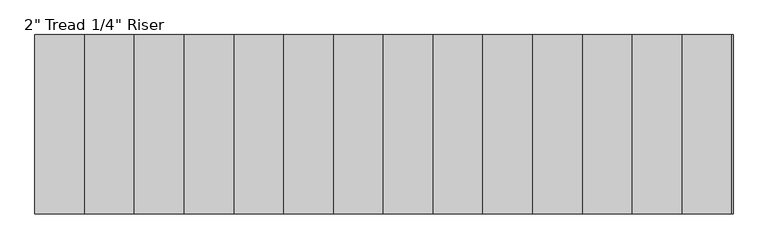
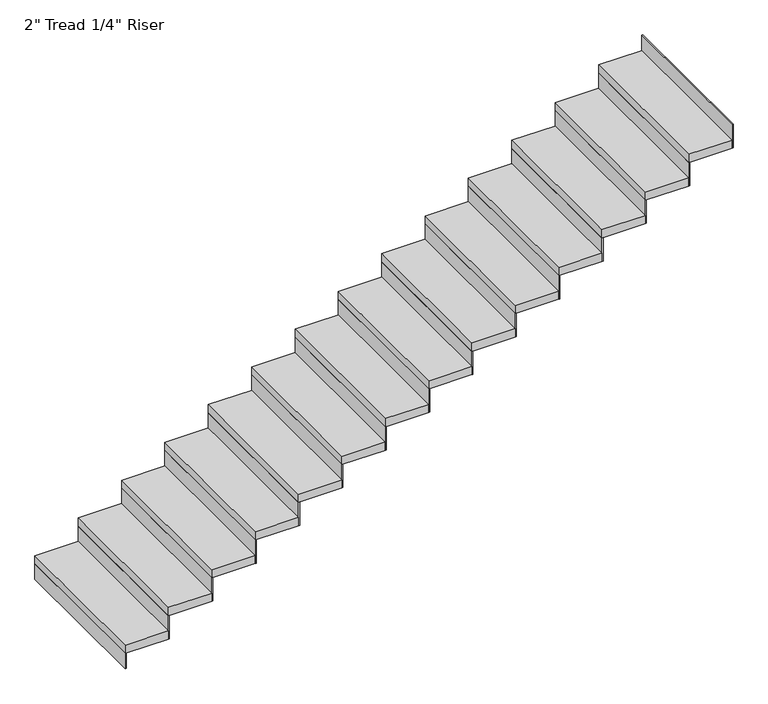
"""IFC4 building model written with IfcOpenShell, lengths in millimetres: stair flight geometry."""

from ifc_helpers import new_model, si_unit, frame, origin, origin_with_axes, place, context, project, spatial, polyline, outline, extrude, source, transform, mapped, element, save


def stair_flight_b1352991(model_context):
    return source(origin(), model_context, "Body", "SweptSolid", [
        extrude(outline(polyline([(134755.6382982, 15846.0395941), (134749.2882982, 15846.0395941), (134749.2882982, 16760.4395941), (134755.6382982, 16760.4395941), (134755.6382982, 15846.0395941)])), origin_with_axes(), (0.0, 0.0, 1.0), 94.3428571),
        extrude(outline(polyline([(135003.2882982, 16760.4395941), (135003.2882982, 15846.0395941), (134749.2882982, 15846.0395941), (134749.2882982, 16760.4395941), (135003.2882982, 16760.4395941)])), frame((0.0, 0.0, 94.3428571), z_axis=(0.0, 0.0, 1.0), x_axis=(1.0, 0.0, 0.0)), (0.0, 0.0, 1.0), 50.8),
        extrude(outline(polyline([(135009.6382982, 15846.0395941), (135003.2882982, 15846.0395941), (135003.2882982, 16760.4395941), (135009.6382982, 16760.4395941), (135009.6382982, 15846.0395941)])), frame((0.0, 0.0, 94.3428571), z_axis=(0.0, 0.0, 1.0), x_axis=(1.0, 0.0, 0.0)), (0.0, 0.0, 1.0), 145.1428571),
        extrude(outline(polyline([(135257.2882982, 16760.4395941), (135257.2882982, 15846.0395941), (135003.2882982, 15846.0395941), (135003.2882982, 16760.4395941), (135257.2882982, 16760.4395941)])), frame((0.0, 0.0, 239.4857143), z_axis=(0.0, 0.0, 1.0), x_axis=(1.0, 0.0, 0.0)), (0.0, 0.0, 1.0), 50.8),
        extrude(outline(polyline([(135263.6382982, 15846.0395941), (135257.2882982, 15846.0395941), (135257.2882982, 16760.4395941), (135263.6382982, 16760.4395941), (135263.6382982, 15846.0395941)])), frame((0.0, 0.0, 239.4857143), z_axis=(0.0, 0.0, 1.0), x_axis=(1.0, 0.0, 0.0)), (0.0, 0.0, 1.0), 145.1428571),
        extrude(outline(polyline([(135511.2882982, 16760.4395941), (135511.2882982, 15846.0395941), (135257.2882982, 15846.0395941), (135257.2882982, 16760.4395941), (135511.2882982, 16760.4395941)])), frame((0.0, 0.0, 384.6285714), z_axis=(0.0, 0.0, 1.0), x_axis=(1.0, 0.0, 0.0)), (0.0, 0.0, 1.0), 50.8),
        extrude(outline(polyline([(135517.6382982, 15846.0395941), (135511.2882982, 15846.0395941), (135511.2882982, 16760.4395941), (135517.6382982, 16760.4395941), (135517.6382982, 15846.0395941)])), frame((0.0, 0.0, 384.6285714), z_axis=(0.0, 0.0, 1.0), x_axis=(1.0, 0.0, 0.0)), (0.0, 0.0, 1.0), 145.1428571),
        extrude(outline(polyline([(135765.2882982, 16760.4395941), (135765.2882982, 15846.0395941), (135511.2882982, 15846.0395941), (135511.2882982, 16760.4395941), (135765.2882982, 16760.4395941)])), frame((0.0, 0.0, 529.7714286), z_axis=(0.0, 0.0, 1.0), x_axis=(1.0, 0.0, 0.0)), (0.0, 0.0, 1.0), 50.8),
        extrude(outline(polyline([(135771.6382982, 15846.0395941), (135765.2882982, 15846.0395941), (135765.2882982, 16760.4395941), (135771.6382982, 16760.4395941), (135771.6382982, 15846.0395941)])), frame((0.0, 0.0, 529.7714286), z_axis=(0.0, 0.0, 1.0), x_axis=(1.0, 0.0, 0.0)), (0.0, 0.0, 1.0), 145.1428571),
        extrude(outline(polyline([(136019.2882982, 16760.4395941), (136019.2882982, 15846.0395941), (135765.2882982, 15846.0395941), (135765.2882982, 16760.4395941), (136019.2882982, 16760.4395941)])), frame((0.0, 0.0, 674.9142857), z_axis=(0.0, 0.0, 1.0), x_axis=(1.0, 0.0, 0.0)), (0.0, 0.0, 1.0), 50.8),
        extrude(outline(polyline([(136025.6382982, 15846.0395941), (136019.2882982, 15846.0395941), (136019.2882982, 16760.4395941), (136025.6382982, 16760.4395941), (136025.6382982, 15846.0395941)])), frame((0.0, 0.0, 674.9142857), z_axis=(0.0, 0.0, 1.0), x_axis=(1.0, 0.0, 0.0)), (0.0, 0.0, 1.0), 145.1428571),
        extrude(outline(polyline([(136273.2882982, 16760.4395941), (136273.2882982, 15846.0395941), (136019.2882982, 15846.0395941), (136019.2882982, 16760.4395941), (136273.2882982, 16760.4395941)])), frame((0.0, 0.0, 820.0571429), z_axis=(0.0, 0.0, 1.0), x_axis=(1.0, 0.0, 0.0)), (0.0, 0.0, 1.0), 50.8),
        extrude(outline(polyline([(136279.6382982, 15846.0395941), (136273.2882982, 15846.0395941), (136273.2882982, 16760.4395941), (136279.6382982, 16760.4395941), (136279.6382982, 15846.0395941)])), frame((0.0, 0.0, 820.0571429), z_axis=(0.0, 0.0, 1.0), x_axis=(1.0, 0.0, 0.0)), (0.0, 0.0, 1.0), 145.1428571),
        extrude(outline(polyline([(136527.2882982, 16760.4395941), (136527.2882982, 15846.0395941), (136273.2882982, 15846.0395941), (136273.2882982, 16760.4395941), (136527.2882982, 16760.4395941)])), frame((0.0, 0.0, 965.2), z_axis=(0.0, 0.0, 1.0), x_axis=(1.0, 0.0, 0.0)), (0.0, 0.0, 1.0), 50.8),
        extrude(outline(polyline([(136533.6382982, 15846.0395941), (136527.2882982, 15846.0395941), (136527.2882982, 16760.4395941), (136533.6382982, 16760.4395941), (136533.6382982, 15846.0395941)])), frame((0.0, 0.0, 965.2), z_axis=(0.0, 0.0, 1.0), x_axis=(1.0, 0.0, 0.0)), (0.0, 0.0, 1.0), 145.1428571),
        extrude(outline(polyline([(136781.2882982, 16760.4395941), (136781.2882982, 15846.0395941), (136527.2882982, 15846.0395941), (136527.2882982, 16760.4395941), (136781.2882982, 16760.4395941)])), frame((0.0, 0.0, 1110.3428571), z_axis=(0.0, 0.0, 1.0), x_axis=(1.0, 0.0, 0.0)), (0.0, 0.0, 1.0), 50.8),
        extrude(outline(polyline([(136787.6382982, 15846.0395941), (136781.2882982, 15846.0395941), (136781.2882982, 16760.4395941), (136787.6382982, 16760.4395941), (136787.6382982, 15846.0395941)])), frame((0.0, 0.0, 1110.3428571), z_axis=(0.0, 0.0, 1.0), x_axis=(1.0, 0.0, 0.0)), (0.0, 0.0, 1.0), 145.1428571),
        extrude(outline(polyline([(137035.2882982, 16760.4395941), (137035.2882982, 15846.0395941), (136781.2882982, 15846.0395941), (136781.2882982, 16760.4395941), (137035.2882982, 16760.4395941)])), frame((0.0, 0.0, 1255.4857143), z_axis=(0.0, 0.0, 1.0), x_axis=(1.0, 0.0, 0.0)), (0.0, 0.0, 1.0), 50.8),
        extrude(outline(polyline([(137041.6382982, 15846.0395941), (137035.2882982, 15846.0395941), (137035.2882982, 16760.4395941), (137041.6382982, 16760.4395941), (137041.6382982, 15846.0395941)])), frame((0.0, 0.0, 1255.4857143), z_axis=(0.0, 0.0, 1.0), x_axis=(1.0, 0.0, 0.0)), (0.0, 0.0, 1.0), 145.1428571),
        extrude(outline(polyline([(137289.2882982, 16760.4395941), (137289.2882982, 15846.0395941), (137035.2882982, 15846.0395941), (137035.2882982, 16760.4395941), (137289.2882982, 16760.4395941)])), frame((0.0, 0.0, 1400.6285714), z_axis=(0.0, 0.0, 1.0), x_axis=(1.0, 0.0, 0.0)), (0.0, 0.0, 1.0), 50.8),
        extrude(outline(polyline([(137295.6382982, 15846.0395941), (137289.2882982, 15846.0395941), (137289.2882982, 16760.4395941), (137295.6382982, 16760.4395941), (137295.6382982, 15846.0395941)])), frame((0.0, 0.0, 1400.6285714), z_axis=(0.0, 0.0, 1.0), x_axis=(1.0, 0.0, 0.0)), (0.0, 0.0, 1.0), 145.1428571),
        extrude(outline(polyline([(137543.2882982, 16760.4395941), (137543.2882982, 15846.0395941), (137289.2882982, 15846.0395941), (137289.2882982, 16760.4395941), (137543.2882982, 16760.4395941)])), frame((0.0, 0.0, 1545.7714286), z_axis=(0.0, 0.0, 1.0), x_axis=(1.0, 0.0, 0.0)), (0.0, 0.0, 1.0), 50.8),
        extrude(outline(polyline([(137549.6382982, 15846.0395941), (137543.2882982, 15846.0395941), (137543.2882982, 16760.4395941), (137549.6382982, 16760.4395941), (137549.6382982, 15846.0395941)])), frame((0.0, 0.0, 1545.7714286), z_axis=(0.0, 0.0, 1.0), x_axis=(1.0, 0.0, 0.0)), (0.0, 0.0, 1.0), 145.1428571),
        extrude(outline(polyline([(137797.2882982, 16760.4395941), (137797.2882982, 15846.0395941), (137543.2882982, 15846.0395941), (137543.2882982, 16760.4395941), (137797.2882982, 16760.4395941)])), frame((0.0, 0.0, 1690.9142857), z_axis=(0.0, 0.0, 1.0), x_axis=(1.0, 0.0, 0.0)), (0.0, 0.0, 1.0), 50.8),
        extrude(outline(polyline([(137803.6382982, 15846.0395941), (137797.2882982, 15846.0395941), (137797.2882982, 16760.4395941), (137803.6382982, 16760.4395941), (137803.6382982, 15846.0395941)])), frame((0.0, 0.0, 1690.9142857), z_axis=(0.0, 0.0, 1.0), x_axis=(1.0, 0.0, 0.0)), (0.0, 0.0, 1.0), 145.1428571),
        extrude(outline(polyline([(138051.2882982, 16760.4395941), (138051.2882982, 15846.0395941), (137797.2882982, 15846.0395941), (137797.2882982, 16760.4395941), (138051.2882982, 16760.4395941)])), frame((0.0, 0.0, 1836.0571429), z_axis=(0.0, 0.0, 1.0), x_axis=(1.0, 0.0, 0.0)), (0.0, 0.0, 1.0), 50.8),
        extrude(outline(polyline([(138057.6382982, 15846.0395941), (138051.2882982, 15846.0395941), (138051.2882982, 16760.4395941), (138057.6382982, 16760.4395941), (138057.6382982, 15846.0395941)])), frame((0.0, 0.0, 1836.0571429), z_axis=(0.0, 0.0, 1.0), x_axis=(1.0, 0.0, 0.0)), (0.0, 0.0, 1.0), 145.1428571),
        extrude(outline(polyline([(138311.6382982, 15846.0395941), (138305.2882982, 15846.0395941), (138305.2882982, 16760.4395941), (138311.6382982, 16760.4395941), (138311.6382982, 15846.0395941)])), frame((0.0, 0.0, 1981.2), z_axis=(0.0, 0.0, 1.0), x_axis=(1.0, 0.0, 0.0)), (0.0, 0.0, 1.0), 145.1428571),
        extrude(outline(polyline([(138305.2882982, 16760.4395941), (138305.2882982, 15846.0395941), (138051.2882982, 15846.0395941), (138051.2882982, 16760.4395941), (138305.2882982, 16760.4395941)])), frame((0.0, 0.0, 1981.2), z_axis=(0.0, 0.0, 1.0), x_axis=(1.0, 0.0, 0.0)), (0.0, 0.0, 1.0), 50.8),
    ])


if __name__ == "__main__":
    model = new_model("IFC4")
    model_context = context("Model", 3, world=origin())
    ifc_project = project(units=[si_unit("LENGTHUNIT", "METRE", prefix="MILLI")], contexts=[model_context])
    site = spatial("IfcSite", under=ifc_project)
    building = spatial("IfcBuilding", under=site)
    placement = place(None, origin())
    stair_flight_shape = stair_flight_b1352991(model_context)
    element("IfcStairFlight", 1, ObjectType="2\" Tread 1/4\" Riser", at=placement, inside=building, context=model_context, shape_type="MappedRepresentation", body=[
        mapped(stair_flight_shape, transform((0.0, 0.0, 0.0), x_axis=(1.0, 0.0, 0.0), y_axis=(0.0, 1.0, 0.0), z_axis=(0.0, 0.0, 1.0))),
    ])
    save(model, "model.ifc")
